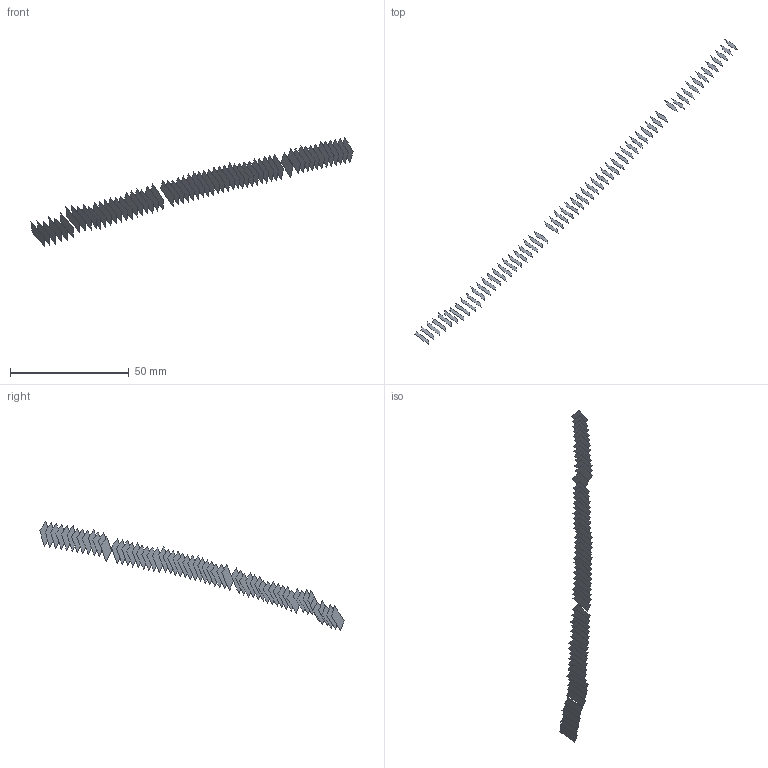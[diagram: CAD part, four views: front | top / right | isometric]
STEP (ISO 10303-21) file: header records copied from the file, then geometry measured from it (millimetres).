
FILE_DESCRIPTION(('FreeCAD Model'),'2;1');
FILE_NAME('Open CASCADE Shape Model','2022-05-22T07:50:32',('FreeCAD'),( 'FreeCAD'),'Open CASCADE STEP processor 7.5','FreeCAD','Unknown');
FILE_SCHEMA(('AUTOMOTIVE_DESIGN { 1 0 10303 214 1 1 1 1 }'));
Length unit declared in the file: millimetre
Products named in the file (60): Open CASCADE STEP translator 7.5 1; Open CASCADE STEP translator 7.5 1.1; Open CASCADE STEP translator 7.5 1.2; Open CASCADE STEP translator 7.5 1.3; Open CASCADE STEP translator 7.5 1.4; Open CASCADE STEP translator 7.5 1.5; Open CASCADE STEP translator 7.5 1.6; Open CASCADE STEP translator 7.5 1.7; Open CASCADE STEP translator 7.5 1.8; Open CASCADE STEP translator 7.5 1.9; Open CASCADE STEP translator 7.5 1.10; Open CASCADE STEP translator 7.5 1.11; Open CASCADE STEP translator 7.5 1.12; Open CASCADE STEP translator 7.5 1.13; Open CASCADE STEP translator 7.5 1.14; Open CASCADE STEP translator 7.5 1.15; Open CASCADE STEP translator 7.5 1.16; Open CASCADE STEP translator 7.5 1.17; Open CASCADE STEP translator 7.5 1.18; Open CASCADE STEP translator 7.5 1.19; Open CASCADE STEP translator 7.5 1.20; Open CASCADE STEP translator 7.5 1.21; Open CASCADE STEP translator 7.5 1.22; Open CASCADE STEP translator 7.5 1.23; Open CASCADE STEP translator 7.5 1.24; Open CASCADE STEP translator 7.5 1.25; Open CASCADE STEP translator 7.5 1.26; Open CASCADE STEP translator 7.5 1.27; Open CASCADE STEP translator 7.5 1.28; Open CASCADE STEP translator 7.5 1.29; Open CASCADE STEP translator 7.5 1.30; Open CASCADE STEP translator 7.5 1.31; Open CASCADE STEP translator 7.5 1.32; Open CASCADE STEP translator 7.5 1.33; Open CASCADE STEP translator 7.5 1.34; Open CASCADE STEP translator 7.5 1.35; Open CASCADE STEP translator 7.5 1.36; Open CASCADE STEP translator 7.5 1.37; Open CASCADE STEP translator 7.5 1.38; Open CASCADE STEP translator 7.5 1.39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
Assembly tree (59 placements, depth 2):
  Open CASCADE STEP translator 7.5 1
    Open CASCADE STEP translator 7.5 1.1
    Open CASCADE STEP translator 7.5 1.2
    Open CASCADE STEP translator 7.5 1.3
    Open CASCADE STEP translator 7.5 1.4
    Open CASCADE STEP translator 7.5 1.5
    Open CASCADE STEP translator 7.5 1.6
    Open CASCADE STEP translator 7.5 1.7
    Open CASCADE STEP translator 7.5 1.8
    Open CASCADE STEP translator 7.5 1.9
    Open CASCADE STEP translator 7.5 1.10
    Open CASCADE STEP translator 7.5 1.11
    Open CASCADE STEP translator 7.5 1.12
    Open CASCADE STEP translator 7.5 1.13
    Open CASCADE STEP translator 7.5 1.14
    Open CASCADE STEP translator 7.5 1.15
    Open CASCADE STEP translator 7.5 1.16
    Open CASCADE STEP translator 7.5 1.17
    Open CASCADE STEP translator 7.5 1.18
    Open CASCADE STEP translator 7.5 1.19
    Open CASCADE STEP translator 7.5 1.20
    Open CASCADE STEP translator 7.5 1.21
    Open CASCADE STEP translator 7.5 1.22
    Open CASCADE STEP translator 7.5 1.23
    Open CASCADE STEP translator 7.5 1.24
    Open CASCADE STEP translator 7.5 1.25
    Open CASCADE STEP translator 7.5 1.26
    Open CASCADE STEP translator 7.5 1.27
    Open CASCADE STEP translator 7.5 1.28
    Open CASCADE STEP translator 7.5 1.29
    Open CASCADE STEP translator 7.5 1.30
    Open CASCADE STEP translator 7.5 1.31
    Open CASCADE STEP translator 7.5 1.32
    Open CASCADE STEP translator 7.5 1.33
    Open CASCADE STEP translator 7.5 1.34
    Open CASCADE STEP translator 7.5 1.35
    Open CASCADE STEP translator 7.5 1.36
    Open CASCADE STEP translator 7.5 1.37
    Open CASCADE STEP translator 7.5 1.38
    Open CASCADE STEP translator 7.5 1.39
    Open CASCADE STEP translator 7.5 1.40
    Open CASCADE STEP translator 7.5 1.41
    Open CASCADE STEP translator 7.5 1.42
    Open CASCADE STEP translator 7.5 1.43
    Open CASCADE STEP translator 7.5 1.44
    Open CASCADE STEP translator 7.5 1.45
    Open CASCADE STEP translator 7.5 1.46
    Open CASCADE STEP translator 7.5 1.47
    Open CASCADE STEP translator 7.5 1.48
    Open CASCADE STEP translator 7.5 1.49
    Open CASCADE STEP translator 7.5 1.50
    Open CASCADE STEP translator 7.5 1.51
    Open CASCADE STEP translator 7.5 1.52
    Open CASCADE STEP translator 7.5 1.53
    Open CASCADE STEP translator 7.5 1.54
    Open CASCADE STEP translator 7.5 1.55
    Open CASCADE STEP translator 7.5 1.56
    Open CASCADE STEP translator 7.5 1.57
    Open CASCADE STEP translator 7.5 1.58
    Open CASCADE STEP translator 7.5 1.59
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Bounding box: 135.5 x 128.04 x 45.91 mm (x, y, z)
Surface area: 2055.2 mm2 (no closed solid volume)
Topology: 0 solids, 59 shells, 59 faces, 830 edges, 830 vertices
Faces by surface type: bspline 59
Entity records: 12458 total; most frequent: CARTESIAN_POINT 4446, B_SPLINE_CURVE_WITH_KNOTS 1660, ORIENTED_EDGE 830, EDGE_CURVE 830, VERTEX_POINT 830, SURFACE_CURVE 830, PCURVE 830, DEFINITIONAL_REPRESENTATION 830
